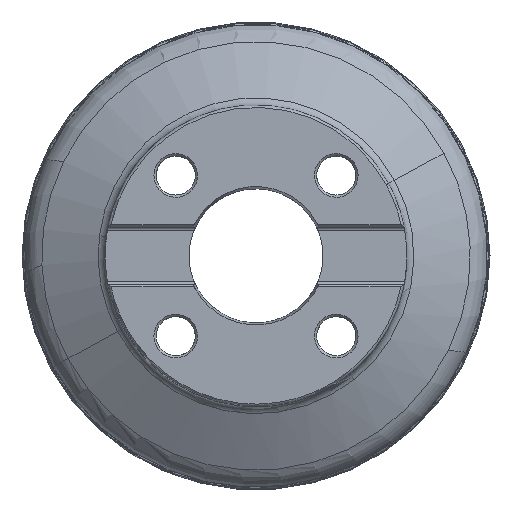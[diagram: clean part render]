
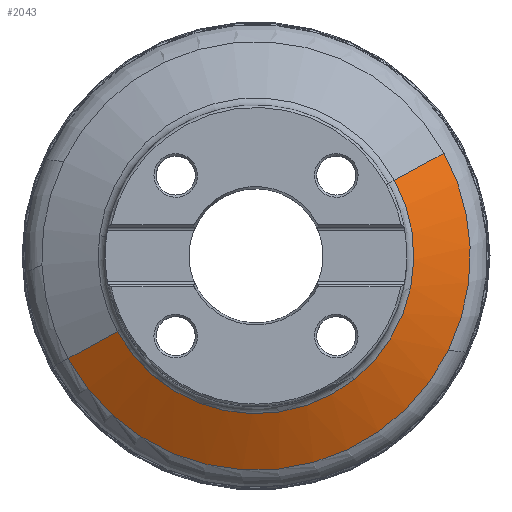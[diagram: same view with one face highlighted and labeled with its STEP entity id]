
A CAD part, top view. The second image highlights one B-rep face of the part: STEP entity #2043.
In plain terms, the highlighted conical face has half-angle 61.42 degrees and reference radius 67.5 mm.
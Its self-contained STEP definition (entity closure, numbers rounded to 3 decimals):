
#1354=AXIS2_PLACEMENT_3D('Circle Axis2P3D',#1352,#1353,$) ;
#2000=AXIS2_PLACEMENT_3D('Cone Axis2P3D',#1997,#1998,#1999) ;
#2011=AXIS2_PLACEMENT_3D('Circle Axis2P3D',#2009,#2010,$) ;
#2018=AXIS2_PLACEMENT_3D('Circle Axis2P3D',#2016,#2017,$) ;
#2025=AXIS2_PLACEMENT_3D('Circle Axis2P3D',#2023,#2024,$) ;
#1349=CARTESIAN_POINT('Vertex',(-61.983,-33.862,-22.705)) ;
#1352=CARTESIAN_POINT('Axis2P3D Location',(0.,0.,-22.705)) ;
#1356=CARTESIAN_POINT('Vertex',(61.983,33.862,-22.705)) ;
#1997=CARTESIAN_POINT('Axis2P3D Location',(0.,0.,-21.)) ;
#2002=CARTESIAN_POINT('Line Origine',(-385353.32,-210519.478,-239197.109)) ;
#2006=CARTESIAN_POINT('Vertex',(-84.131,-45.961,-36.453)) ;
#2009=CARTESIAN_POINT('Axis2P3D Location',(0.,0.,-36.453)) ;
#2013=CARTESIAN_POINT('Vertex',(86.011,-42.339,-36.453)) ;
#2016=CARTESIAN_POINT('Axis2P3D Location',(0.,0.,-36.453)) ;
#2020=CARTESIAN_POINT('Vertex',(95.78,4.08,-36.453)) ;
#2023=CARTESIAN_POINT('Axis2P3D Location',(0.,0.,-36.453)) ;
#2027=CARTESIAN_POINT('Vertex',(84.131,45.961,-36.453)) ;
#2030=CARTESIAN_POINT('Line Origine',(385353.32,210519.478,-239197.109)) ;
#1353=DIRECTION('Axis2P3D Direction',(0.,0.,1.)) ;
#1998=DIRECTION('Axis2P3D Direction',(-0.,-0.,-1.)) ;
#1999=DIRECTION('Axis2P3D XDirection',(0.878,0.479,0.)) ;
#2003=DIRECTION('Vector Direction',(-0.771,-0.421,-0.478)) ;
#2010=DIRECTION('Axis2P3D Direction',(0.,0.,-1.)) ;
#2017=DIRECTION('Axis2P3D Direction',(0.,0.,-1.)) ;
#2024=DIRECTION('Axis2P3D Direction',(0.,0.,-1.)) ;
#2031=DIRECTION('Vector Direction',(0.771,0.421,-0.478)) ;
#2004=VECTOR('Line Direction',#2003,1.) ;
#2032=VECTOR('Line Direction',#2031,1.) ;
#2036=ORIENTED_EDGE('',*,*,#2008,.F.) ;
#2037=ORIENTED_EDGE('',*,*,#2015,.T.) ;
#2038=ORIENTED_EDGE('',*,*,#2022,.T.) ;
#2039=ORIENTED_EDGE('',*,*,#2029,.T.) ;
#2040=ORIENTED_EDGE('',*,*,#2034,.T.) ;
#2041=ORIENTED_EDGE('',*,*,#1358,.T.) ;
#2043=ADVANCED_FACE('NOCUT',(#2042),#2001,.T.) ;
#1355=CIRCLE('generated circle',#1354,70.63) ;
#2012=CIRCLE('generated circle',#2011,95.867) ;
#2019=CIRCLE('generated circle',#2018,95.867) ;
#2026=CIRCLE('generated circle',#2025,95.867) ;
#2001=CONICAL_SURFACE('Cone',#2000,67.5,1.072) ;
#1358=EDGE_CURVE('',#1357,#1350,#1355,.F.) ;
#2008=EDGE_CURVE('',#2007,#1350,#2005,.F.) ;
#2015=EDGE_CURVE('',#2007,#2014,#2012,.F.) ;
#2022=EDGE_CURVE('',#2014,#2021,#2019,.F.) ;
#2029=EDGE_CURVE('',#2021,#2028,#2026,.F.) ;
#2034=EDGE_CURVE('',#2028,#1357,#2033,.F.) ;
#2035=EDGE_LOOP('',(#2036,#2037,#2038,#2039,#2040,#2041)) ;
#2042=FACE_OUTER_BOUND('',#2035,.T.) ;
#2005=LINE('Line',#2002,#2004) ;
#2033=LINE('Line',#2030,#2032) ;
#1350=VERTEX_POINT('',#1349) ;
#1357=VERTEX_POINT('',#1356) ;
#2007=VERTEX_POINT('',#2006) ;
#2014=VERTEX_POINT('',#2013) ;
#2021=VERTEX_POINT('',#2020) ;
#2028=VERTEX_POINT('',#2027) ;
